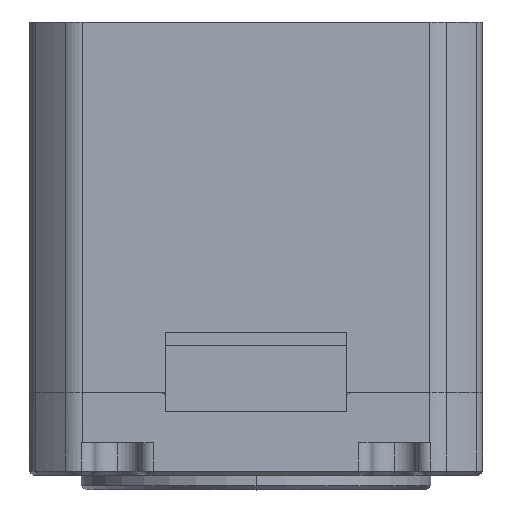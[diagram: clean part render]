
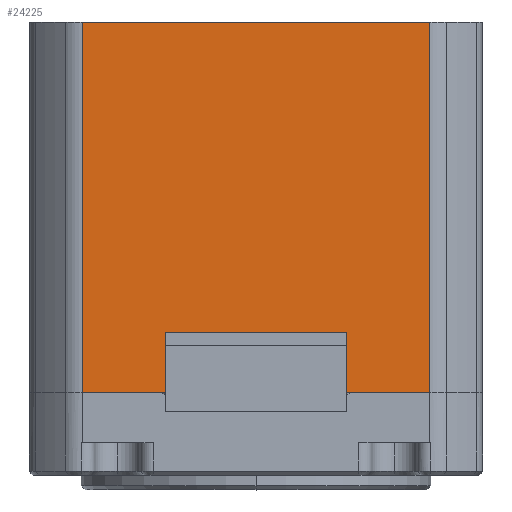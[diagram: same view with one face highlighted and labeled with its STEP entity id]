
A CAD part, top view. The second image highlights one B-rep face of the part: STEP entity #24225.
In plain terms, the highlighted planar face has unit normal (0, 0, 1).
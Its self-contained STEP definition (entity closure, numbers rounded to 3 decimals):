
#468 = VERTEX_POINT ( 'NONE', #32014 ) ;
#684 = CARTESIAN_POINT ( 'NONE',  ( -14.142, -4.6, 17.5 ) ) ;
#1449 = CARTESIAN_POINT ( 'NONE',  ( 17.5, 0., 17.5 ) ) ;
#2726 = CARTESIAN_POINT ( 'NONE',  ( -13.416, -4.6, 17.5 ) ) ;
#3133 = LINE ( 'NONE', #56510, #22943 ) ;
#3215 = CARTESIAN_POINT ( 'NONE',  ( 7., -4.6, 17.5 ) ) ;
#3672 = VERTEX_POINT ( 'NONE', #67594 ) ;
#5799 = EDGE_CURVE ( 'NONE', #6525, #69315, #11369, .T. ) ;
#6525 = VERTEX_POINT ( 'NONE', #57917 ) ;
#7532 = CARTESIAN_POINT ( 'NONE',  ( 7., -4.6, 17.5 ) ) ;
#8095 = DIRECTION ( 'NONE',  ( 1., 0., 0. ) ) ;
#9873 = CARTESIAN_POINT ( 'NONE',  ( 7., -4.6, 17.5 ) ) ;
#10808 = EDGE_CURVE ( 'NONE', #69315, #64228, #33245, .T. ) ;
#11330 = EDGE_CURVE ( 'NONE', #44906, #63852, #61318, .T. ) ;
#11369 = LINE ( 'NONE', #46696, #32145 ) ;
#16122 = LINE ( 'NONE', #3215, #72816 ) ;
#16856 = DIRECTION ( 'NONE',  ( -1., 0., 0. ) ) ;
#16943 = VECTOR ( 'NONE', #43032, 1000. ) ;
#18736 = PLANE ( 'NONE',  #70152 ) ;
#19243 = EDGE_CURVE ( 'NONE', #468, #63852, #55218, .T. ) ;
#19266 = EDGE_CURVE ( 'NONE', #32198, #64228, #54450, .T. ) ;
#20694 = VECTOR ( 'NONE', #8095, 1000. ) ;
#21352 = EDGE_LOOP ( 'NONE', ( #66569, #55790, #73117, #74328, #60187, #30312, #62179, #68726 ) ) ;
#22943 = VECTOR ( 'NONE', #27049, 1000. ) ;
#24225 = ADVANCED_FACE ( 'NONE', ( #72488 ), #18736, .T. ) ;
#27049 = DIRECTION ( 'NONE',  ( 0., 1., 0. ) ) ;
#27127 = DIRECTION ( 'NONE',  ( -1., 0., 0. ) ) ;
#30312 = ORIENTED_EDGE ( 'NONE', *, *, #11330, .F. ) ;
#31467 = DIRECTION ( 'NONE',  ( 0., 1., 0. ) ) ;
#32014 = CARTESIAN_POINT ( 'NONE',  ( -7., 0., 17.5 ) ) ;
#32145 = VECTOR ( 'NONE', #16856, 1000. ) ;
#32198 = VERTEX_POINT ( 'NONE', #39887 ) ;
#33245 = LINE ( 'NONE', #51307, #62563 ) ;
#34254 = VECTOR ( 'NONE', #41159, 1000. ) ;
#35646 = CARTESIAN_POINT ( 'NONE',  ( 13.416, 24., 17.5 ) ) ;
#37286 = VECTOR ( 'NONE', #31467, 1000. ) ;
#39887 = CARTESIAN_POINT ( 'NONE',  ( -7., -4.6, 17.5 ) ) ;
#41159 = DIRECTION ( 'NONE',  ( 0., 1., 0. ) ) ;
#42681 = DIRECTION ( 'NONE',  ( 0., 0., 1. ) ) ;
#43032 = DIRECTION ( 'NONE',  ( -1., 0., 0. ) ) ;
#43456 = CARTESIAN_POINT ( 'NONE',  ( 17.5, 0., 17.5 ) ) ;
#44906 = VERTEX_POINT ( 'NONE', #9873 ) ;
#46251 = EDGE_CURVE ( 'NONE', #32198, #468, #3133, .T. ) ;
#46484 = EDGE_CURVE ( 'NONE', #3672, #6525, #54105, .T. ) ;
#46696 = CARTESIAN_POINT ( 'NONE',  ( 16.3, 24., 17.5 ) ) ;
#49348 = CARTESIAN_POINT ( 'NONE',  ( -13.416, 24., 17.5 ) ) ;
#51307 = CARTESIAN_POINT ( 'NONE',  ( -13.416, -4.6, 17.5 ) ) ;
#54105 = LINE ( 'NONE', #35646, #34254 ) ;
#54450 = LINE ( 'NONE', #684, #16943 ) ;
#55218 = LINE ( 'NONE', #1449, #20694 ) ;
#55790 = ORIENTED_EDGE ( 'NONE', *, *, #10808, .T. ) ;
#56510 = CARTESIAN_POINT ( 'NONE',  ( -7., -4.6, 17.5 ) ) ;
#57213 = DIRECTION ( 'NONE',  ( 0., -1., 0. ) ) ;
#57917 = CARTESIAN_POINT ( 'NONE',  ( 13.416, 24., 17.5 ) ) ;
#60187 = ORIENTED_EDGE ( 'NONE', *, *, #19243, .T. ) ;
#61318 = LINE ( 'NONE', #7532, #37286 ) ;
#62179 = ORIENTED_EDGE ( 'NONE', *, *, #62795, .F. ) ;
#62563 = VECTOR ( 'NONE', #57213, 1000. ) ;
#62795 = EDGE_CURVE ( 'NONE', #3672, #44906, #16122, .T. ) ;
#63852 = VERTEX_POINT ( 'NONE', #64415 ) ;
#64228 = VERTEX_POINT ( 'NONE', #2726 ) ;
#64415 = CARTESIAN_POINT ( 'NONE',  ( 7., 0., 17.5 ) ) ;
#66569 = ORIENTED_EDGE ( 'NONE', *, *, #5799, .T. ) ;
#67408 = DIRECTION ( 'NONE',  ( 1., 0., 0. ) ) ;
#67594 = CARTESIAN_POINT ( 'NONE',  ( 13.416, -4.6, 17.5 ) ) ;
#68726 = ORIENTED_EDGE ( 'NONE', *, *, #46484, .T. ) ;
#69315 = VERTEX_POINT ( 'NONE', #49348 ) ;
#70152 = AXIS2_PLACEMENT_3D ( 'NONE', #43456, #42681, #67408 ) ;
#72488 = FACE_OUTER_BOUND ( 'NONE', #21352, .T. ) ;
#72816 = VECTOR ( 'NONE', #27127, 1000. ) ;
#73117 = ORIENTED_EDGE ( 'NONE', *, *, #19266, .F. ) ;
#74328 = ORIENTED_EDGE ( 'NONE', *, *, #46251, .T. ) ;
